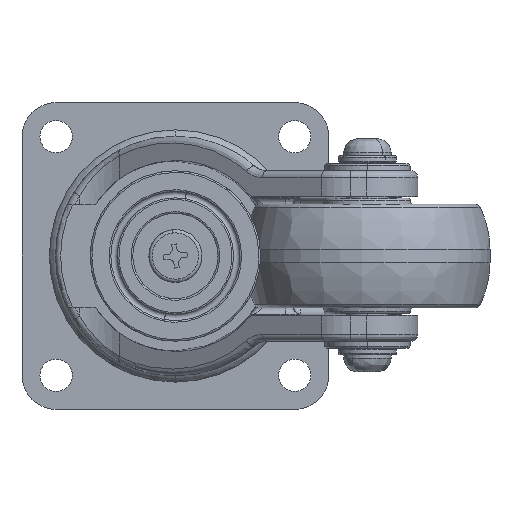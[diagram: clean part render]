
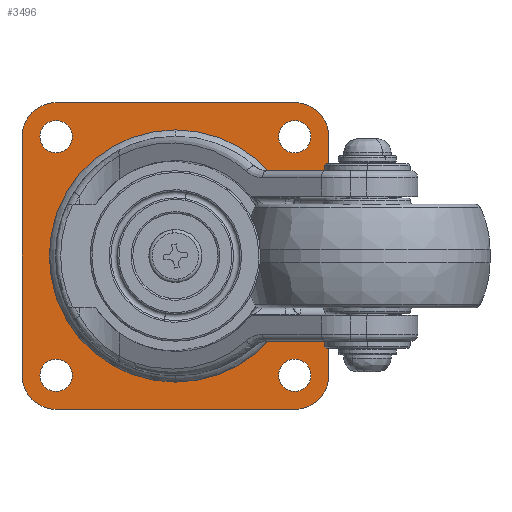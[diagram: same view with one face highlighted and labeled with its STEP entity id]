
A CAD part, front view. The second image highlights one B-rep face of the part: STEP entity #3496.
In plain terms, the highlighted planar face has unit normal (0, -1, 0).
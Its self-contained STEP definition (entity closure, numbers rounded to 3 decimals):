
#205=FACE_BOUND('',#5229,.T.);
#206=FACE_BOUND('',#5230,.T.);
#207=FACE_BOUND('',#5231,.T.);
#208=FACE_BOUND('',#5232,.T.);
#209=FACE_BOUND('',#5233,.T.);
#210=FACE_BOUND('',#5234,.T.);
#1040=PLANE('',#14582);
#1668=LINE('',#21488,#2330);
#1669=LINE('',#21491,#2331);
#1670=LINE('',#21494,#2332);
#1671=LINE('',#21497,#2333);
#2330=VECTOR('',#16816,1.);
#2331=VECTOR('',#16819,1.);
#2332=VECTOR('',#16822,1.);
#2333=VECTOR('',#16825,1.);
#3496=ADVANCED_FACE('',(#205,#206,#207,#208,#209,#210),#1040,.T.);
#5229=EDGE_LOOP('',(#6726,#6727));
#5230=EDGE_LOOP('',(#6728,#6729));
#5231=EDGE_LOOP('',(#6730,#6731));
#5232=EDGE_LOOP('',(#6732,#6733));
#5233=EDGE_LOOP('',(#6734,#6735));
#5234=EDGE_LOOP('',(#6736,#6737,#6738,#6739,#6740,#6741,#6742,#6743,#6744,
#6745,#6746,#6747));
#6726=ORIENTED_EDGE('',*,*,#11521,.F.);
#6727=ORIENTED_EDGE('',*,*,#11734,.F.);
#6728=ORIENTED_EDGE('',*,*,#11735,.T.);
#6729=ORIENTED_EDGE('',*,*,#11533,.T.);
#6730=ORIENTED_EDGE('',*,*,#11736,.T.);
#6731=ORIENTED_EDGE('',*,*,#11537,.T.);
#6732=ORIENTED_EDGE('',*,*,#11737,.T.);
#6733=ORIENTED_EDGE('',*,*,#11541,.T.);
#6734=ORIENTED_EDGE('',*,*,#11738,.T.);
#6735=ORIENTED_EDGE('',*,*,#11545,.T.);
#6736=ORIENTED_EDGE('',*,*,#11551,.T.);
#6737=ORIENTED_EDGE('',*,*,#11739,.T.);
#6738=ORIENTED_EDGE('',*,*,#11740,.T.);
#6739=ORIENTED_EDGE('',*,*,#11563,.T.);
#6740=ORIENTED_EDGE('',*,*,#11741,.T.);
#6741=ORIENTED_EDGE('',*,*,#11742,.T.);
#6742=ORIENTED_EDGE('',*,*,#11559,.T.);
#6743=ORIENTED_EDGE('',*,*,#11743,.T.);
#6744=ORIENTED_EDGE('',*,*,#11744,.T.);
#6745=ORIENTED_EDGE('',*,*,#11555,.T.);
#6746=ORIENTED_EDGE('',*,*,#11745,.T.);
#6747=ORIENTED_EDGE('',*,*,#11746,.T.);
#10189=VERTEX_POINT('',#20722);
#10190=VERTEX_POINT('',#20723);
#10201=VERTEX_POINT('',#20747);
#10202=VERTEX_POINT('',#20748);
#10205=VERTEX_POINT('',#20756);
#10206=VERTEX_POINT('',#20757);
#10209=VERTEX_POINT('',#20765);
#10210=VERTEX_POINT('',#20766);
#10213=VERTEX_POINT('',#20774);
#10214=VERTEX_POINT('',#20775);
#10219=VERTEX_POINT('',#20786);
#10220=VERTEX_POINT('',#20788);
#10223=VERTEX_POINT('',#20795);
#10224=VERTEX_POINT('',#20797);
#10227=VERTEX_POINT('',#20804);
#10228=VERTEX_POINT('',#20806);
#10231=VERTEX_POINT('',#20813);
#10232=VERTEX_POINT('',#20815);
#10322=VERTEX_POINT('',#21487);
#10323=VERTEX_POINT('',#21490);
#10324=VERTEX_POINT('',#21493);
#10325=VERTEX_POINT('',#21496);
#11521=EDGE_CURVE('',#10189,#10190,#13437,.T.);
#11533=EDGE_CURVE('',#10201,#10202,#13449,.T.);
#11537=EDGE_CURVE('',#10205,#10206,#13451,.T.);
#11541=EDGE_CURVE('',#10209,#10210,#13453,.T.);
#11545=EDGE_CURVE('',#10213,#10214,#13455,.T.);
#11551=EDGE_CURVE('',#10220,#10219,#13458,.T.);
#11555=EDGE_CURVE('',#10224,#10223,#13460,.T.);
#11559=EDGE_CURVE('',#10228,#10227,#13462,.T.);
#11563=EDGE_CURVE('',#10232,#10231,#13464,.T.);
#11734=EDGE_CURVE('',#10190,#10189,#13566,.T.);
#11735=EDGE_CURVE('',#10202,#10201,#13567,.T.);
#11736=EDGE_CURVE('',#10206,#10205,#13568,.T.);
#11737=EDGE_CURVE('',#10210,#10209,#13569,.T.);
#11738=EDGE_CURVE('',#10214,#10213,#13570,.T.);
#11739=EDGE_CURVE('',#10219,#10322,#13571,.T.);
#11740=EDGE_CURVE('',#10322,#10232,#1668,.T.);
#11741=EDGE_CURVE('',#10231,#10323,#13572,.T.);
#11742=EDGE_CURVE('',#10323,#10228,#1669,.T.);
#11743=EDGE_CURVE('',#10227,#10324,#13573,.T.);
#11744=EDGE_CURVE('',#10324,#10224,#1670,.T.);
#11745=EDGE_CURVE('',#10223,#10325,#13574,.T.);
#11746=EDGE_CURVE('',#10325,#10220,#1671,.T.);
#13437=CIRCLE('',#14348,37.);
#13449=CIRCLE('',#14361,4.75);
#13451=CIRCLE('',#14364,4.75);
#13453=CIRCLE('',#14367,4.75);
#13455=CIRCLE('',#14370,4.75);
#13458=CIRCLE('',#14374,10.);
#13460=CIRCLE('',#14377,10.);
#13462=CIRCLE('',#14380,10.);
#13464=CIRCLE('',#14383,10.);
#13566=CIRCLE('',#14572,37.);
#13567=CIRCLE('',#14574,4.75);
#13568=CIRCLE('',#14575,4.75);
#13569=CIRCLE('',#14576,4.75);
#13570=CIRCLE('',#14577,4.75);
#13571=CIRCLE('',#14578,10.);
#13572=CIRCLE('',#14579,10.);
#13573=CIRCLE('',#14580,10.);
#13574=CIRCLE('',#14581,10.);
#14348=AXIS2_PLACEMENT_3D('',#20721,#16308,#16309);
#14361=AXIS2_PLACEMENT_3D('',#20746,#16334,#16335);
#14364=AXIS2_PLACEMENT_3D('',#20755,#16342,#16343);
#14367=AXIS2_PLACEMENT_3D('',#20764,#16350,#16351);
#14370=AXIS2_PLACEMENT_3D('',#20773,#16358,#16359);
#14374=AXIS2_PLACEMENT_3D('',#20787,#16369,#16370);
#14377=AXIS2_PLACEMENT_3D('',#20796,#16377,#16378);
#14380=AXIS2_PLACEMENT_3D('',#20805,#16385,#16386);
#14383=AXIS2_PLACEMENT_3D('',#20814,#16393,#16394);
#14572=AXIS2_PLACEMENT_3D('',#21480,#16802,#16803);
#14574=AXIS2_PLACEMENT_3D('',#21482,#16806,#16807);
#14575=AXIS2_PLACEMENT_3D('',#21483,#16808,#16809);
#14576=AXIS2_PLACEMENT_3D('',#21484,#16810,#16811);
#14577=AXIS2_PLACEMENT_3D('',#21485,#16812,#16813);
#14578=AXIS2_PLACEMENT_3D('',#21486,#16814,#16815);
#14579=AXIS2_PLACEMENT_3D('',#21489,#16817,#16818);
#14580=AXIS2_PLACEMENT_3D('',#21492,#16820,#16821);
#14581=AXIS2_PLACEMENT_3D('',#21495,#16823,#16824);
#14582=AXIS2_PLACEMENT_3D('',#21498,#16826,#16827);
#16308=DIRECTION('',(0.,-1.,0.));
#16309=DIRECTION('',(0.,0.,-1.));
#16334=DIRECTION('',(0.,1.,0.));
#16335=DIRECTION('',(0.,0.,1.));
#16342=DIRECTION('',(0.,1.,0.));
#16343=DIRECTION('',(0.,0.,1.));
#16350=DIRECTION('',(0.,1.,0.));
#16351=DIRECTION('',(0.,0.,1.));
#16358=DIRECTION('',(0.,1.,0.));
#16359=DIRECTION('',(0.,0.,1.));
#16369=DIRECTION('',(0.,-1.,0.));
#16370=DIRECTION('',(0.,0.,-1.));
#16377=DIRECTION('',(0.,-1.,0.));
#16378=DIRECTION('',(0.,0.,-1.));
#16385=DIRECTION('',(0.,-1.,0.));
#16386=DIRECTION('',(0.,0.,-1.));
#16393=DIRECTION('',(0.,-1.,0.));
#16394=DIRECTION('',(0.,0.,-1.));
#16802=DIRECTION('',(0.,-1.,0.));
#16803=DIRECTION('',(0.,0.,-1.));
#16806=DIRECTION('',(0.,1.,0.));
#16807=DIRECTION('',(0.,0.,1.));
#16808=DIRECTION('',(0.,1.,0.));
#16809=DIRECTION('',(0.,0.,1.));
#16810=DIRECTION('',(0.,1.,0.));
#16811=DIRECTION('',(0.,0.,1.));
#16812=DIRECTION('',(0.,1.,0.));
#16813=DIRECTION('',(0.,0.,1.));
#16814=DIRECTION('',(0.,-1.,0.));
#16815=DIRECTION('',(0.,0.,-1.));
#16816=DIRECTION('',(0.,0.,-1.));
#16817=DIRECTION('',(0.,-1.,0.));
#16818=DIRECTION('',(0.,0.,-1.));
#16819=DIRECTION('',(1.,0.,0.));
#16820=DIRECTION('',(0.,-1.,0.));
#16821=DIRECTION('',(0.,0.,-1.));
#16822=DIRECTION('',(0.,0.,1.));
#16823=DIRECTION('',(0.,-1.,0.));
#16824=DIRECTION('',(0.,0.,-1.));
#16825=DIRECTION('',(-1.,0.,0.));
#16826=DIRECTION('',(0.,-1.,0.));
#16827=DIRECTION('',(1.,0.,0.));
#20721=CARTESIAN_POINT('',(7.752,62.071,23.318));
#20722=CARTESIAN_POINT('',(7.752,62.071,60.318));
#20723=CARTESIAN_POINT('',(7.752,62.071,-13.682));
#20746=CARTESIAN_POINT('',(-27.248,62.071,-11.682));
#20747=CARTESIAN_POINT('',(-27.248,62.071,-6.932));
#20748=CARTESIAN_POINT('',(-27.248,62.071,-16.432));
#20755=CARTESIAN_POINT('',(-27.248,62.071,58.318));
#20756=CARTESIAN_POINT('',(-27.248,62.071,63.068));
#20757=CARTESIAN_POINT('',(-27.248,62.071,53.568));
#20764=CARTESIAN_POINT('',(42.752,62.071,-11.682));
#20765=CARTESIAN_POINT('',(42.752,62.071,-6.932));
#20766=CARTESIAN_POINT('',(42.752,62.071,-16.432));
#20773=CARTESIAN_POINT('',(42.752,62.071,58.318));
#20774=CARTESIAN_POINT('',(42.752,62.071,63.068));
#20775=CARTESIAN_POINT('',(42.752,62.071,53.568));
#20786=CARTESIAN_POINT('',(-34.319,62.071,65.389));
#20787=CARTESIAN_POINT('',(-27.248,62.071,58.318));
#20788=CARTESIAN_POINT('',(-27.248,62.071,68.318));
#20795=CARTESIAN_POINT('',(49.823,62.071,65.389));
#20796=CARTESIAN_POINT('',(42.752,62.071,58.318));
#20797=CARTESIAN_POINT('',(52.752,62.071,58.318));
#20804=CARTESIAN_POINT('',(49.823,62.071,-18.753));
#20805=CARTESIAN_POINT('',(42.752,62.071,-11.682));
#20806=CARTESIAN_POINT('',(42.752,62.071,-21.682));
#20813=CARTESIAN_POINT('',(-34.319,62.071,-18.753));
#20814=CARTESIAN_POINT('',(-27.248,62.071,-11.682));
#20815=CARTESIAN_POINT('',(-37.248,62.071,-11.682));
#21480=CARTESIAN_POINT('',(7.752,62.071,23.318));
#21482=CARTESIAN_POINT('',(-27.248,62.071,-11.682));
#21483=CARTESIAN_POINT('',(-27.248,62.071,58.318));
#21484=CARTESIAN_POINT('',(42.752,62.071,-11.682));
#21485=CARTESIAN_POINT('',(42.752,62.071,58.318));
#21486=CARTESIAN_POINT('',(-27.248,62.071,58.318));
#21487=CARTESIAN_POINT('',(-37.248,62.071,58.318));
#21488=CARTESIAN_POINT('',(-37.248,62.071,23.318));
#21489=CARTESIAN_POINT('',(-27.248,62.071,-11.682));
#21490=CARTESIAN_POINT('',(-27.248,62.071,-21.682));
#21491=CARTESIAN_POINT('',(7.752,62.071,-21.682));
#21492=CARTESIAN_POINT('',(42.752,62.071,-11.682));
#21493=CARTESIAN_POINT('',(52.752,62.071,-11.682));
#21494=CARTESIAN_POINT('',(52.752,62.071,23.318));
#21495=CARTESIAN_POINT('',(42.752,62.071,58.318));
#21496=CARTESIAN_POINT('',(42.752,62.071,68.318));
#21497=CARTESIAN_POINT('',(7.752,62.071,68.318));
#21498=CARTESIAN_POINT('',(-33.248,62.071,23.318));
